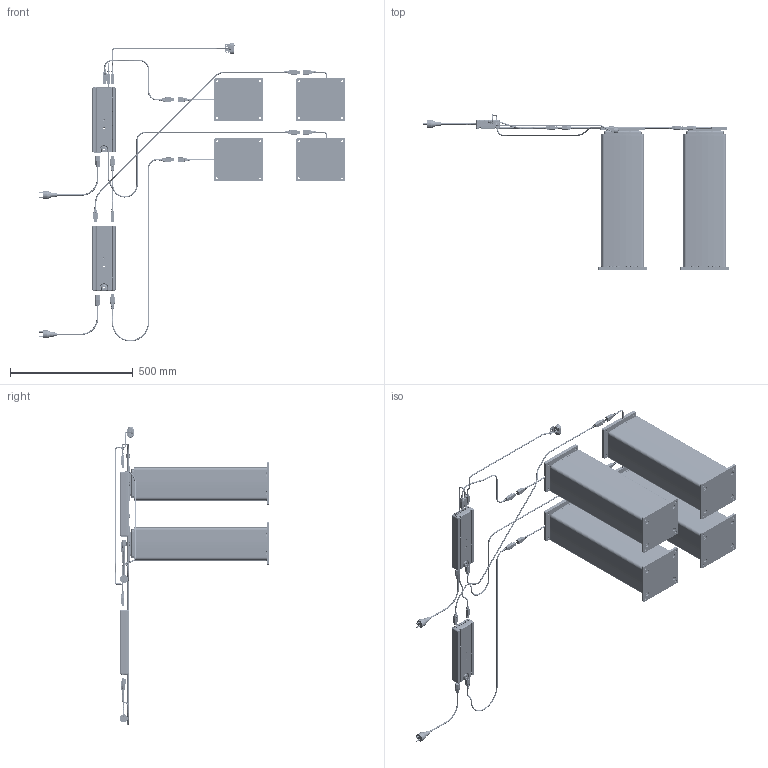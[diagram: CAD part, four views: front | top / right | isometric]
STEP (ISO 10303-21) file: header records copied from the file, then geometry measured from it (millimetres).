
FILE_DESCRIPTION((''),'2;1');
FILE_NAME('SINGLE-LC1-KIT_ASM','2023-05-12T07:48:42',('jak'),(''),'CREO PARAMETRIC BY PTC INC, 2022024','CREO PARAMETRIC BY PTC INC, 2022024','');
FILE_SCHEMA(('AUTOMOTIVE_DESIGN { 1 0 10303 214 1 1 1 1 }'));
Length unit declared in the file: millimetre
Products named in the file (25): ST-BOKS; NETKABEL; 1053W4000-F1_DESK; 1053W4000-F2_DESK; 1053W4000-F3_DESK; 1053W4000-BOTTOM; 1053W4000-1053W1008; 1053W4000-PLUG; 1053W4000-MINIFIT-TOPENTRY; 0801116; 1053W1086; LC1-BID1-560_ASM; MINIFIT_HUN; MINIFIT; KAB-1; SHELL-NETSTIK; DPF1K_BRACKET_914757; KAB-3; MINIFIT_HUN_2; KAB-4; KAB-5; MINIFIT_1; KAB-6; KAB-7; SINGLE-LC1-KIT_ASM
Assembly tree (39 placements, depth 3):
  SINGLE-LC1-KIT_ASM
    ST-BOKS  x2
    NETKABEL  x2
    LC1-BID1-560_ASM  x4
      1053W4000-F1_DESK
      1053W4000-F2_DESK
      1053W4000-F3_DESK
      1053W4000-BOTTOM
      1053W4000-1053W1008
      1053W4000-PLUG
      1053W4000-MINIFIT-TOPENTRY
      0801116
      1053W1086
    MINIFIT_HUN  x2
    MINIFIT  x6
    KAB-1
    SHELL-NETSTIK  x3
    DPF1K_BRACKET_914757
    KAB-3
    MINIFIT_HUN_2  x2
    KAB-4
    KAB-5
    MINIFIT_1  x2
    KAB-6
    KAB-7
Bounding box: 1251.27 x 632.27 x 1219.2 mm (x, y, z)
Volume: 119889284.3 mm3; surface area: 5047129.5 mm2
Topology: 66 solids, 102 shells, 15723 faces, 39087 edges, 24179 vertices
Faces by surface type: plane 6324, cylinder 4162, bspline 1697, torus 1467, cone 1291, sphere 412, extrusion 362, revolution 8
Entity records: 220002 total; most frequent: CARTESIAN_POINT 62455, ORIENTED_EDGE 27292, DIRECTION 24761, EDGE_CURVE 13646, VERTEX_POINT 8515, AXIS2_PLACEMENT_3D 8490, VECTOR 7779, LINE 7592
